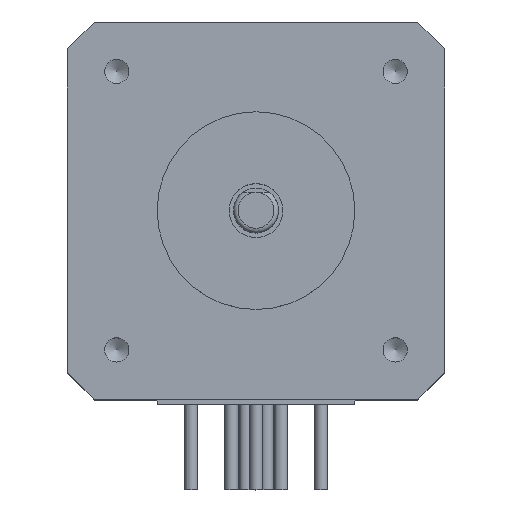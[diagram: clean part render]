
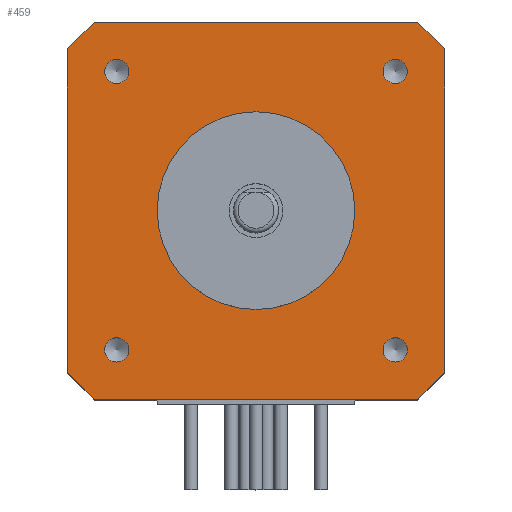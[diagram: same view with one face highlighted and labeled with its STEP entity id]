
A CAD part, top view. The second image highlights one B-rep face of the part: STEP entity #459.
In plain terms, the highlighted planar face has unit normal (0, 0, 1).
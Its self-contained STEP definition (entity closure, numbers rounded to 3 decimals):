
#237=LINE('',#2165,#366);
#239=LINE('',#2169,#368);
#242=LINE('',#2175,#371);
#245=LINE('',#2181,#374);
#248=LINE('',#2195,#377);
#249=LINE('',#2196,#378);
#250=LINE('',#2197,#379);
#251=LINE('',#2198,#380);
#366=VECTOR('',#1713,1.);
#368=VECTOR('',#1717,1.);
#371=VECTOR('',#1722,1.);
#374=VECTOR('',#1727,1.);
#377=VECTOR('',#1740,1.);
#378=VECTOR('',#1741,1.);
#379=VECTOR('',#1742,1.);
#380=VECTOR('',#1743,1.);
#459=ADVANCED_FACE('',(#612,#613,#614,#615,#616,#617),#540,.F.);
#540=PLANE('',#1503);
#612=FACE_BOUND('',#691,.T.);
#613=FACE_BOUND('',#692,.T.);
#614=FACE_BOUND('',#693,.T.);
#615=FACE_BOUND('',#694,.T.);
#616=FACE_BOUND('',#695,.T.);
#617=FACE_BOUND('',#696,.T.);
#691=EDGE_LOOP('',(#884));
#692=EDGE_LOOP('',(#885));
#693=EDGE_LOOP('',(#886));
#694=EDGE_LOOP('',(#887));
#695=EDGE_LOOP('',(#888));
#696=EDGE_LOOP('',(#889,#890,#891,#892,#893,#894,#895,#896));
#884=ORIENTED_EDGE('',*,*,#1336,.T.);
#885=ORIENTED_EDGE('',*,*,#1337,.T.);
#886=ORIENTED_EDGE('',*,*,#1338,.T.);
#887=ORIENTED_EDGE('',*,*,#1339,.T.);
#888=ORIENTED_EDGE('',*,*,#1322,.T.);
#889=ORIENTED_EDGE('',*,*,#1325,.F.);
#890=ORIENTED_EDGE('',*,*,#1340,.T.);
#891=ORIENTED_EDGE('',*,*,#1333,.F.);
#892=ORIENTED_EDGE('',*,*,#1341,.T.);
#893=ORIENTED_EDGE('',*,*,#1330,.F.);
#894=ORIENTED_EDGE('',*,*,#1342,.T.);
#895=ORIENTED_EDGE('',*,*,#1327,.F.);
#896=ORIENTED_EDGE('',*,*,#1343,.T.);
#1189=VERTEX_POINT('',#2157);
#1191=VERTEX_POINT('',#2164);
#1192=VERTEX_POINT('',#2166);
#1193=VERTEX_POINT('',#2170);
#1194=VERTEX_POINT('',#2171);
#1195=VERTEX_POINT('',#2176);
#1196=VERTEX_POINT('',#2177);
#1197=VERTEX_POINT('',#2182);
#1198=VERTEX_POINT('',#2183);
#1199=VERTEX_POINT('',#2188);
#1200=VERTEX_POINT('',#2190);
#1201=VERTEX_POINT('',#2192);
#1202=VERTEX_POINT('',#2194);
#1322=EDGE_CURVE('',#1189,#1189,#1437,.T.);
#1325=EDGE_CURVE('',#1191,#1192,#237,.T.);
#1327=EDGE_CURVE('',#1193,#1194,#239,.T.);
#1330=EDGE_CURVE('',#1195,#1196,#242,.T.);
#1333=EDGE_CURVE('',#1197,#1198,#245,.T.);
#1336=EDGE_CURVE('',#1199,#1199,#1439,.T.);
#1337=EDGE_CURVE('',#1200,#1200,#1440,.T.);
#1338=EDGE_CURVE('',#1201,#1201,#1441,.T.);
#1339=EDGE_CURVE('',#1202,#1202,#1442,.T.);
#1340=EDGE_CURVE('',#1191,#1198,#248,.T.);
#1341=EDGE_CURVE('',#1197,#1196,#249,.T.);
#1342=EDGE_CURVE('',#1195,#1194,#250,.T.);
#1343=EDGE_CURVE('',#1193,#1192,#251,.T.);
#1437=CIRCLE('',#1490,11.);
#1439=CIRCLE('',#1499,1.35);
#1440=CIRCLE('',#1500,1.35);
#1441=CIRCLE('',#1501,1.35);
#1442=CIRCLE('',#1502,1.35);
#1490=AXIS2_PLACEMENT_3D('',#2156,#1702,#1703);
#1499=AXIS2_PLACEMENT_3D('',#2187,#1732,#1733);
#1500=AXIS2_PLACEMENT_3D('',#2189,#1734,#1735);
#1501=AXIS2_PLACEMENT_3D('',#2191,#1736,#1737);
#1502=AXIS2_PLACEMENT_3D('',#2193,#1738,#1739);
#1503=AXIS2_PLACEMENT_3D('',#2199,#1744,#1745);
#1702=DIRECTION('',(0.,0.,-1.));
#1703=DIRECTION('',(1.,0.,0.));
#1713=DIRECTION('',(0.,1.,0.));
#1717=DIRECTION('',(1.,0.,0.));
#1722=DIRECTION('',(0.,-1.,0.));
#1727=DIRECTION('',(-1.,0.,0.));
#1732=DIRECTION('',(0.,0.,-1.));
#1733=DIRECTION('',(-1.,0.,0.));
#1734=DIRECTION('',(0.,0.,-1.));
#1735=DIRECTION('',(-1.,0.,0.));
#1736=DIRECTION('',(0.,0.,-1.));
#1737=DIRECTION('',(-1.,0.,0.));
#1738=DIRECTION('',(0.,0.,-1.));
#1739=DIRECTION('',(-1.,0.,0.));
#1740=DIRECTION('',(0.707,-0.707,0.));
#1741=DIRECTION('',(0.707,0.707,0.));
#1742=DIRECTION('',(-0.707,0.707,0.));
#1743=DIRECTION('',(-0.707,-0.707,0.));
#1744=DIRECTION('',(0.,0.,-1.));
#1745=DIRECTION('',(-1.,0.,0.));
#2156=CARTESIAN_POINT('',(0.,0.,0.));
#2157=CARTESIAN_POINT('',(11.,0.,0.));
#2164=CARTESIAN_POINT('',(-21.,-18.,0.));
#2165=CARTESIAN_POINT('',(-21.,-21.,0.));
#2166=CARTESIAN_POINT('',(-21.,18.,0.));
#2169=CARTESIAN_POINT('',(-21.,21.,0.));
#2170=CARTESIAN_POINT('',(-18.,21.,0.));
#2171=CARTESIAN_POINT('',(18.,21.,0.));
#2175=CARTESIAN_POINT('',(21.,21.,0.));
#2176=CARTESIAN_POINT('',(21.,18.,0.));
#2177=CARTESIAN_POINT('',(21.,-18.,0.));
#2181=CARTESIAN_POINT('',(21.,-21.,0.));
#2182=CARTESIAN_POINT('',(18.,-21.,0.));
#2183=CARTESIAN_POINT('',(-18.,-21.,0.));
#2187=CARTESIAN_POINT('',(15.5,-15.5,0.));
#2188=CARTESIAN_POINT('',(14.15,-15.5,0.));
#2189=CARTESIAN_POINT('',(15.5,15.5,0.));
#2190=CARTESIAN_POINT('',(14.15,15.5,0.));
#2191=CARTESIAN_POINT('',(-15.5,15.5,0.));
#2192=CARTESIAN_POINT('',(-16.85,15.5,0.));
#2193=CARTESIAN_POINT('',(-15.5,-15.5,0.));
#2194=CARTESIAN_POINT('',(-16.85,-15.5,0.));
#2195=CARTESIAN_POINT('',(-21.,-18.,0.));
#2196=CARTESIAN_POINT('',(18.,-21.,0.));
#2197=CARTESIAN_POINT('',(21.,18.,0.));
#2198=CARTESIAN_POINT('',(-18.,21.,0.));
#2199=CARTESIAN_POINT('',(-21.,-21.,0.));
